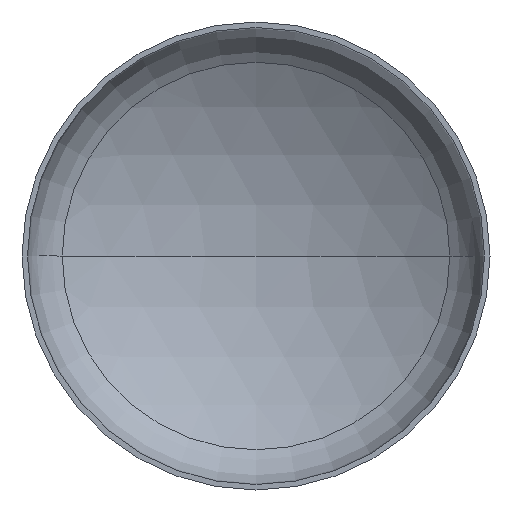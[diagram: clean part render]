
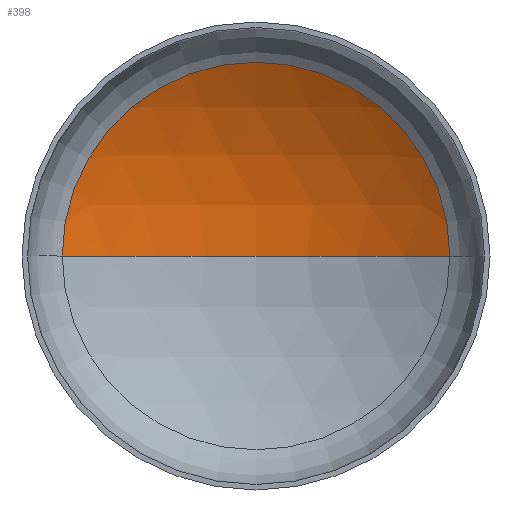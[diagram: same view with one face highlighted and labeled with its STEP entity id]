
A CAD part, front view. The second image highlights one B-rep face of the part: STEP entity #398.
In plain terms, the highlighted spherical face has radius 6400 mm.
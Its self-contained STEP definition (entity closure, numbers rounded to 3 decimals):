
#58 = AXIS2_PLACEMENT_3D ( 'NONE', #183, #188, #304 ) ;
#60 = VERTEX_POINT ( 'NONE', #262 ) ;
#64 = AXIS2_PLACEMENT_3D ( 'NONE', #207, #209, #203 ) ;
#66 = AXIS2_PLACEMENT_3D ( 'NONE', #191, #298, #297 ) ;
#108 = ORIENTED_EDGE ( 'NONE', *, *, #127, .T. ) ;
#127 = EDGE_CURVE ( 'NONE', #174, #60, #338, .T. ) ;
#131 = EDGE_CURVE ( 'NONE', #142, #174, #396, .T. ) ;
#132 = ORIENTED_EDGE ( 'NONE', *, *, #131, .T. ) ;
#138 = EDGE_CURVE ( 'NONE', #142, #60, #211, .T. ) ;
#142 = VERTEX_POINT ( 'NONE', #347 ) ;
#155 = EDGE_LOOP ( 'NONE', ( #181, #132, #108 ) ) ;
#165 = CARTESIAN_POINT ( 'NONE',  ( 3312.65, 1152.415, 0. ) ) ;
#174 = VERTEX_POINT ( 'NONE', #165 ) ;
#181 = ORIENTED_EDGE ( 'NONE', *, *, #138, .F. ) ;
#183 = CARTESIAN_POINT ( 'NONE',  ( 0., -4323.565, 0. ) ) ;
#188 = DIRECTION ( 'NONE',  ( 0., 0., 1. ) ) ;
#191 = CARTESIAN_POINT ( 'NONE',  ( 0., 1152.415, 0. ) ) ;
#203 = DIRECTION ( 'NONE',  ( -1., 0., 0. ) ) ;
#207 = CARTESIAN_POINT ( 'NONE',  ( 0., -4323.565, 0. ) ) ;
#209 = DIRECTION ( 'NONE',  ( 0., 0., -1. ) ) ;
#211 = CIRCLE ( 'NONE', #58, 6400. ) ;
#221 = FACE_OUTER_BOUND ( 'NONE', #155, .T. ) ;
#251 = AXIS2_PLACEMENT_3D ( 'NONE', #394, #374, #329 ) ;
#262 = CARTESIAN_POINT ( 'NONE',  ( -3312.65, 1152.415, 0. ) ) ;
#287 = SPHERICAL_SURFACE ( 'NONE', #251, 6400. ) ;
#297 = DIRECTION ( 'NONE',  ( 1., 0., 0. ) ) ;
#298 = DIRECTION ( 'NONE',  ( 0., -1., 0. ) ) ;
#304 = DIRECTION ( 'NONE',  ( 1., 0., 0. ) ) ;
#329 = DIRECTION ( 'NONE',  ( -1., 0., 0. ) ) ;
#338 = CIRCLE ( 'NONE', #66, 3312.65 ) ;
#347 = CARTESIAN_POINT ( 'NONE',  ( 0., 2076.435, 0. ) ) ;
#374 = DIRECTION ( 'NONE',  ( 0., 0., -1. ) ) ;
#394 = CARTESIAN_POINT ( 'NONE',  ( 0., -4323.565, 0. ) ) ;
#396 = CIRCLE ( 'NONE', #64, 6400. ) ;
#398 = ADVANCED_FACE ( 'NONE', ( #221 ), #287, .F. ) ;
